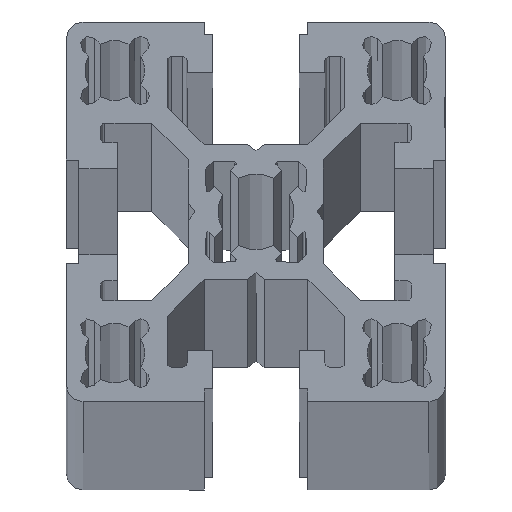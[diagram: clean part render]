
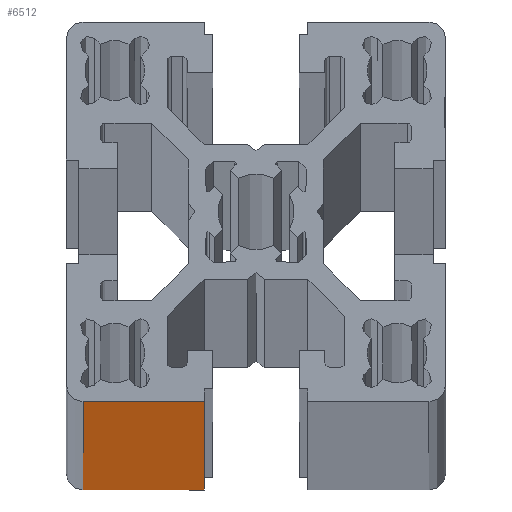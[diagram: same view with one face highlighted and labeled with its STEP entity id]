
A CAD part, top view. The second image highlights one B-rep face of the part: STEP entity #6512.
In plain terms, the highlighted planar face has unit normal (0, -1, 0).
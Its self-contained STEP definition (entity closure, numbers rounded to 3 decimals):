
#563 = DIRECTION ( 'NONE',  ( 0., 0., 1. ) ) ;
#703 = CARTESIAN_POINT ( 'NONE',  ( 2., 0., -6000. ) ) ;
#848 = CARTESIAN_POINT ( 'NONE',  ( 16.357, 0., -6000. ) ) ;
#863 = CARTESIAN_POINT ( 'NONE',  ( 16.357, 0., -6000. ) ) ;
#1924 = DIRECTION ( 'NONE',  ( 0., 0., 1. ) ) ;
#2246 = ORIENTED_EDGE ( 'NONE', *, *, #4151, .T. ) ;
#2493 = LINE ( 'NONE', #848, #10027 ) ;
#2732 = VECTOR ( 'NONE', #563, 1000. ) ;
#3192 = CARTESIAN_POINT ( 'NONE',  ( 16.357, 0., -6000. ) ) ;
#3459 = ORIENTED_EDGE ( 'NONE', *, *, #11934, .T. ) ;
#4151 = EDGE_CURVE ( 'NONE', #6456, #4768, #5257, .T. ) ;
#4204 = EDGE_CURVE ( 'NONE', #10350, #6905, #7468, .T. ) ;
#4292 = DIRECTION ( 'NONE',  ( 1., 0., 0. ) ) ;
#4768 = VERTEX_POINT ( 'NONE', #11868 ) ;
#5257 = LINE ( 'NONE', #863, #2732 ) ;
#5317 = DIRECTION ( 'NONE',  ( 0., -1., 0. ) ) ;
#6361 = PLANE ( 'NONE',  #8147 ) ;
#6456 = VERTEX_POINT ( 'NONE', #3192 ) ;
#6512 = ADVANCED_FACE ( 'NONE', ( #11973 ), #6361, .T. ) ;
#6905 = VERTEX_POINT ( 'NONE', #9677 ) ;
#7025 = ORIENTED_EDGE ( 'NONE', *, *, #9308, .F. ) ;
#7445 = DIRECTION ( 'NONE',  ( 1., 0., 0. ) ) ;
#7468 = LINE ( 'NONE', #11235, #9655 ) ;
#7510 = CARTESIAN_POINT ( 'NONE',  ( 16.357, 0., 0. ) ) ;
#7642 = LINE ( 'NONE', #7510, #12049 ) ;
#8147 = AXIS2_PLACEMENT_3D ( 'NONE', #10850, #5317, #4292 ) ;
#8458 = DIRECTION ( 'NONE',  ( 1., 0., 0. ) ) ;
#8978 = EDGE_LOOP ( 'NONE', ( #7025, #10498, #3459, #2246 ) ) ;
#9308 = EDGE_CURVE ( 'NONE', #6905, #4768, #7642, .T. ) ;
#9655 = VECTOR ( 'NONE', #1924, 1000. ) ;
#9677 = CARTESIAN_POINT ( 'NONE',  ( 2., 0., 0. ) ) ;
#10027 = VECTOR ( 'NONE', #7445, 1000. ) ;
#10350 = VERTEX_POINT ( 'NONE', #703 ) ;
#10498 = ORIENTED_EDGE ( 'NONE', *, *, #4204, .F. ) ;
#10850 = CARTESIAN_POINT ( 'NONE',  ( 16.357, 0., -6000. ) ) ;
#11235 = CARTESIAN_POINT ( 'NONE',  ( 2., 0., -6000. ) ) ;
#11868 = CARTESIAN_POINT ( 'NONE',  ( 16.357, 0., 0. ) ) ;
#11934 = EDGE_CURVE ( 'NONE', #10350, #6456, #2493, .T. ) ;
#11973 = FACE_OUTER_BOUND ( 'NONE', #8978, .T. ) ;
#12049 = VECTOR ( 'NONE', #8458, 1000. ) ;
